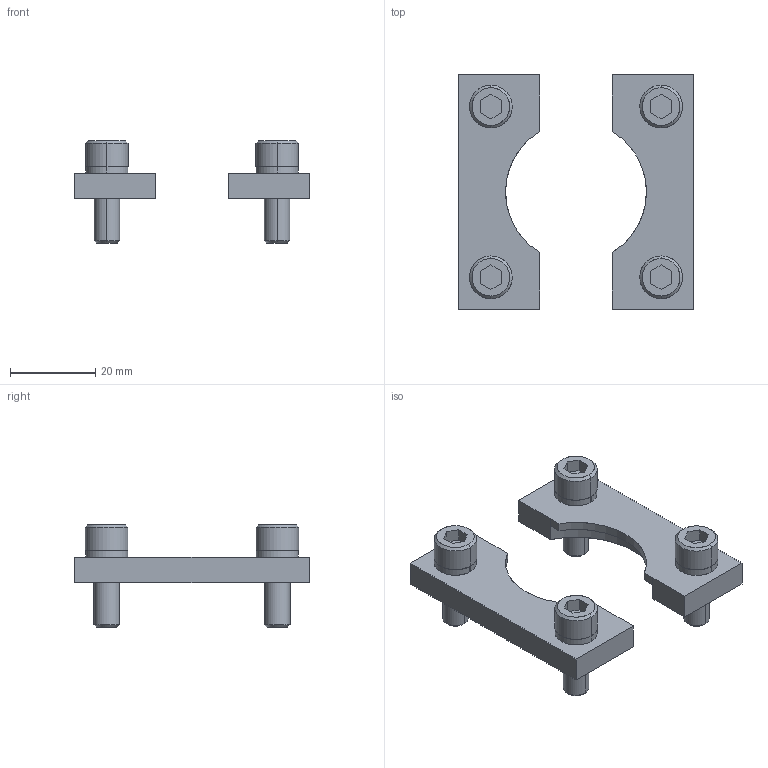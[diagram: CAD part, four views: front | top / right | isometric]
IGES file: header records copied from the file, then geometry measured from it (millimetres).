
Global section: file name: E:\UnigraphicsGraphicData\MISUMI_PRESS-PARTS\IGES\3d_sf38_05188_r00.igs; native system: NX V5.0; preprocessor: UGS NX IGES V5.0; author: MISUMI; date: 20110105.162527; units: millimetre
Bounding box: 55 x 55 x 24 mm (x, y, z)
Surface area: 9216.7 mm2 (no closed solid volume)
Topology: 0 solids, 0 shells, 136 faces, 868 edges, 868 vertices
Faces by surface type: bspline 136
